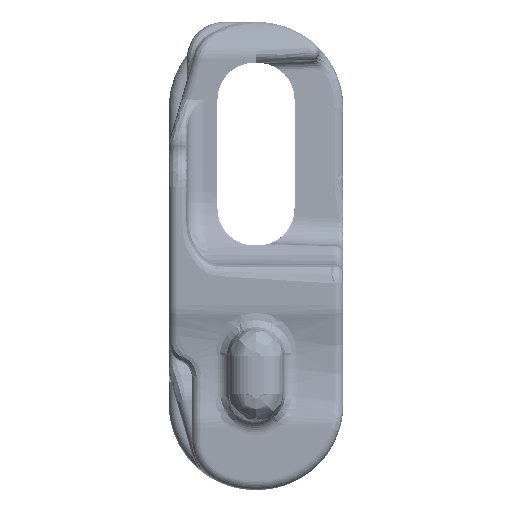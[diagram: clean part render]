
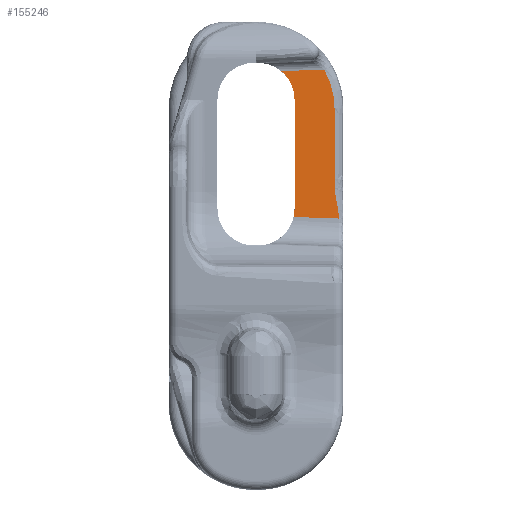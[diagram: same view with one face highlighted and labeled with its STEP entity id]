
A CAD part, left-side view. The second image highlights one B-rep face of the part: STEP entity #155246.
In plain terms, the highlighted planar face has unit normal (-0.999, -0.035, 0).
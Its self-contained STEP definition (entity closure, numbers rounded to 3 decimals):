
#38839=CARTESIAN_POINT('',(-198.184,-9.042,
6.082));
#38893=DIRECTION('',(0.,0.,-1.));
#38894=VECTOR('',#38893,11.9);
#38895=CARTESIAN_POINT('',(-198.353,-4.2,19.05));
#38896=LINE('',#38895,#38894);
#38897=CARTESIAN_POINT('',(-198.405,-2.733,
22.146));
#38898=CARTESIAN_POINT('',(-198.396,-2.977,
21.946));
#38899=CARTESIAN_POINT('',(-198.382,-3.393,
21.511));
#38900=CARTESIAN_POINT('',(-198.366,-3.842,
20.776));
#38901=CARTESIAN_POINT('',(-198.356,-4.127,
19.963));
#38902=CARTESIAN_POINT('',(-198.353,-4.2,19.366));
#38903=CARTESIAN_POINT('',(-198.353,-4.2,19.05));
#38905=DIRECTION('',(0.035,-0.999,0.035));
#38906=VECTOR('',#38905,4.702);
#38907=CARTESIAN_POINT('',(-198.405,-2.733,
22.146));
#38908=LINE('',#38907,#38906);
#38909=CARTESIAN_POINT('',(-198.241,-7.429,
22.31));
#38910=CARTESIAN_POINT('',(-198.239,-7.462,
22.252));
#38911=CARTESIAN_POINT('',(-198.237,-7.528,
22.136));
#38912=CARTESIAN_POINT('',(-198.234,-7.622,
21.959));
#38913=CARTESIAN_POINT('',(-198.231,-7.712,
21.78));
#38914=CARTESIAN_POINT('',(-198.228,-7.798,
21.598));
#38915=CARTESIAN_POINT('',(-198.225,-7.879,
21.415));
#38916=CARTESIAN_POINT('',(-198.222,-7.956,
21.23));
#38917=CARTESIAN_POINT('',(-198.22,-8.028,
21.043));
#38918=CARTESIAN_POINT('',(-198.217,-8.096,
20.855));
#38919=CARTESIAN_POINT('',(-198.215,-8.16,
20.664));
#38920=CARTESIAN_POINT('',(-198.213,-8.219,
20.473));
#38921=CARTESIAN_POINT('',(-198.211,-8.273,
20.28));
#38922=CARTESIAN_POINT('',(-198.209,-8.323,
20.086));
#38923=CARTESIAN_POINT('',(-198.208,-8.368,
19.89));
#38924=CARTESIAN_POINT('',(-198.206,-8.408,
19.694));
#38925=CARTESIAN_POINT('',(-198.205,-8.444,
19.497));
#38926=CARTESIAN_POINT('',(-198.204,-8.475,
19.299));
#38927=CARTESIAN_POINT('',(-198.203,-8.501,
19.1));
#38928=CARTESIAN_POINT('',(-198.202,-8.522,
18.901));
#38929=CARTESIAN_POINT('',(-198.202,-8.539,
18.701));
#38930=CARTESIAN_POINT('',(-198.201,-8.551,
18.501));
#38931=CARTESIAN_POINT('',(-198.201,-8.558,
18.3));
#38932=CARTESIAN_POINT('',(-198.201,-8.56,
18.167));
#38933=CARTESIAN_POINT('',(-198.201,-8.56,18.1));
#38935=CARTESIAN_POINT('',(-198.201,-8.56,18.1));
#38936=CARTESIAN_POINT('',(-198.201,-8.56,
17.844));
#38937=CARTESIAN_POINT('',(-198.201,-8.56,
17.348));
#38938=CARTESIAN_POINT('',(-198.201,-8.56,
16.658));
#38939=CARTESIAN_POINT('',(-198.201,-8.56,
16.016));
#38940=CARTESIAN_POINT('',(-198.201,-8.56,
15.419));
#38941=CARTESIAN_POINT('',(-198.201,-8.56,
14.864));
#38942=CARTESIAN_POINT('',(-198.201,-8.56,
14.347));
#38943=CARTESIAN_POINT('',(-198.201,-8.56,
13.867));
#38944=CARTESIAN_POINT('',(-198.201,-8.56,
13.42));
#38945=CARTESIAN_POINT('',(-198.201,-8.56,
13.005));
#38946=CARTESIAN_POINT('',(-198.201,-8.56,
12.618));
#38947=CARTESIAN_POINT('',(-198.201,-8.56,
12.259));
#38948=CARTESIAN_POINT('',(-198.201,-8.56,
11.925));
#38949=CARTESIAN_POINT('',(-198.201,-8.56,
11.614));
#38950=CARTESIAN_POINT('',(-198.201,-8.56,
11.326));
#38951=CARTESIAN_POINT('',(-198.201,-8.56,
11.058));
#38952=CARTESIAN_POINT('',(-198.201,-8.56,
10.81));
#38953=CARTESIAN_POINT('',(-198.201,-8.56,
10.58));
#38954=CARTESIAN_POINT('',(-198.201,-8.56,
10.367));
#38955=CARTESIAN_POINT('',(-198.201,-8.56,
10.169));
#38956=CARTESIAN_POINT('',(-198.201,-8.56,
9.986));
#38957=CARTESIAN_POINT('',(-198.201,-8.56,
9.821));
#38958=CARTESIAN_POINT('',(-198.201,-8.559,
9.671));
#38959=CARTESIAN_POINT('',(-198.201,-8.562,
9.529));
#38960=CARTESIAN_POINT('',(-198.201,-8.568,
9.388));
#38961=CARTESIAN_POINT('',(-198.2,-8.579,
9.241));
#38962=CARTESIAN_POINT('',(-198.2,-8.595,
9.077));
#38963=CARTESIAN_POINT('',(-198.199,-8.618,
8.887));
#38964=CARTESIAN_POINT('',(-198.198,-8.65,
8.671));
#38965=CARTESIAN_POINT('',(-198.196,-8.692,
8.43));
#38966=CARTESIAN_POINT('',(-198.195,-8.743,
8.159));
#38967=CARTESIAN_POINT('',(-198.193,-8.802,
7.865));
#38968=CARTESIAN_POINT('',(-198.191,-8.86,
7.58));
#38969=CARTESIAN_POINT('',(-198.189,-8.909,
7.32));
#38970=CARTESIAN_POINT('',(-198.187,-8.949,
7.089));
#38971=CARTESIAN_POINT('',(-198.186,-8.98,
6.888));
#38972=CARTESIAN_POINT('',(-198.186,-9.002,
6.712));
#38973=CARTESIAN_POINT('',(-198.185,-9.019,
6.552));
#38974=CARTESIAN_POINT('',(-198.185,-9.031,
6.4));
#38975=CARTESIAN_POINT('',(-198.184,-9.04,
6.248));
#38976=CARTESIAN_POINT('',(-198.184,-9.042,
6.139));
#38977=CARTESIAN_POINT('',(-198.184,-9.042,
6.082));
#38979=DIRECTION('',(0.035,-0.999,-0.035));
#38980=VECTOR('',#38979,4.95);
#38981=CARTESIAN_POINT('',(-198.357,-4.099,
6.255));
#38982=LINE('',#38981,#38980);
#38983=CARTESIAN_POINT('',(-198.353,-4.2,7.15));
#38984=CARTESIAN_POINT('',(-198.353,-4.2,6.848));
#38985=CARTESIAN_POINT('',(-198.355,-4.166,
6.55));
#38986=CARTESIAN_POINT('',(-198.357,-4.099,
6.255));
#94480=CARTESIAN_POINT('',(-198.353,-4.2,19.05));
#94481=CARTESIAN_POINT('',(-198.353,-4.2,7.15));
#94482=VERTEX_POINT('',#94480);
#94483=VERTEX_POINT('',#94481);
#102541=VERTEX_POINT('',#38897);
#102569=VERTEX_POINT('',#38986);
#106648=VERTEX_POINT('',#38839);
#106650=VERTEX_POINT('',#38935);
#106652=VERTEX_POINT('',#38909);
#155230=CARTESIAN_POINT('',(-198.5,0.,24.41));
#155231=DIRECTION('',(0.999,0.035,0.));
#155232=DIRECTION('',(0.,0.,-1.));
#155233=AXIS2_PLACEMENT_3D('',#155230,#155231,#155232);
#155234=PLANE('',#155233);
#155235=ORIENTED_EDGE('',*,*,#118890,.F.);
#155236=ORIENTED_EDGE('',*,*,#123294,.F.);
#155237=ORIENTED_EDGE('',*,*,#123700,.T.);
#155239=ORIENTED_EDGE('',*,*,#155238,.T.);
#155241=ORIENTED_EDGE('',*,*,#155240,.T.);
#155242=ORIENTED_EDGE('',*,*,#155222,.F.);
#155243=ORIENTED_EDGE('',*,*,#120755,.F.);
#155244=EDGE_LOOP('',(#155235,#155236,#155237,#155239,#155241,#155242,#155243));
#155245=FACE_OUTER_BOUND('',#155244,.F.);
#38904=B_SPLINE_CURVE_WITH_KNOTS('',3,(#38897,#38898,#38899,#38900,#38901,
#38902,#38903),.UNSPECIFIED.,.F.,.F.,(4,1,1,1,4),(0.,0.25,0.5,0.75,
1.),.UNSPECIFIED.);
#38934=B_SPLINE_CURVE_WITH_KNOTS('',3,(#38909,#38910,#38911,#38912,#38913,
#38914,#38915,#38916,#38917,#38918,#38919,#38920,#38921,#38922,#38923,#38924,
#38925,#38926,#38927,#38928,#38929,#38930,#38931,#38932,#38933),.UNSPECIFIED.,
.F.,.F.,(4,1,1,1,1,1,1,1,1,1,1,1,1,1,1,1,1,1,1,1,1,1,4),(0.,0.045,
0.091,0.136,0.182,0.227,
0.273,0.318,0.364,0.409,
0.455,0.5,0.545,0.591,0.636,
0.682,0.727,0.773,0.818,
0.864,0.909,0.955,1.),.UNSPECIFIED.);
#38978=B_SPLINE_CURVE_WITH_KNOTS('',3,(#38935,#38936,#38937,#38938,#38939,
#38940,#38941,#38942,#38943,#38944,#38945,#38946,#38947,#38948,#38949,#38950,
#38951,#38952,#38953,#38954,#38955,#38956,#38957,#38958,#38959,#38960,#38961,
#38962,#38963,#38964,#38965,#38966,#38967,#38968,#38969,#38970,#38971,#38972,
#38973,#38974,#38975,#38976,#38977),.UNSPECIFIED.,.F.,.F.,(4,1,1,1,1,1,1,1,1,1,
1,1,1,1,1,1,1,1,1,1,1,1,1,1,1,1,1,1,1,1,1,1,1,1,1,1,1,1,1,1,4),(0.,0.025,
0.05,0.075,0.1,0.125,0.15,0.175,0.2,0.225,0.25,0.275,0.3,
0.325,0.35,0.375,0.4,0.425,0.45,0.475,0.5,0.525,0.55,
0.575,0.6,0.625,0.65,0.675,0.7,0.725,0.75,0.775,0.8,0.825,
0.85,0.875,0.9,0.925,0.95,0.975,1.),.UNSPECIFIED.);
#38987=B_SPLINE_CURVE_WITH_KNOTS('',3,(#38983,#38984,#38985,#38986),
.UNSPECIFIED.,.F.,.F.,(4,4),(0.,1.),.UNSPECIFIED.);
#118890=EDGE_CURVE('',#94482,#94483,#38896,.T.);
#120755=EDGE_CURVE('',#94483,#102569,#38987,.T.);
#123294=EDGE_CURVE('',#102541,#94482,#38904,.T.);
#123700=EDGE_CURVE('',#102541,#106652,#38908,.T.);
#155222=EDGE_CURVE('',#102569,#106648,#38982,.T.);
#155238=EDGE_CURVE('',#106652,#106650,#38934,.T.);
#155240=EDGE_CURVE('',#106650,#106648,#38978,.T.);
#155246=ADVANCED_FACE('',(#155245),#155234,.F.);
